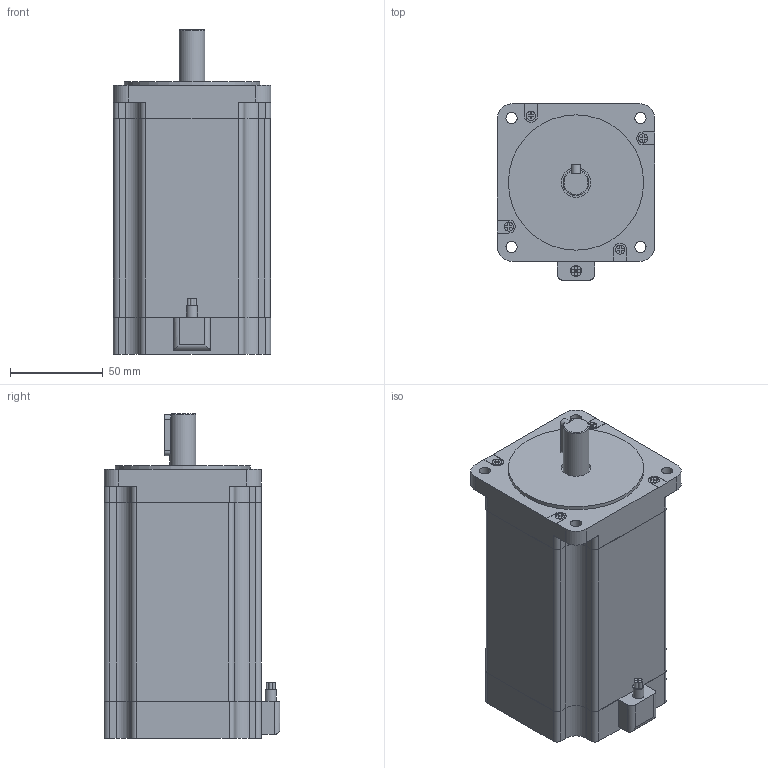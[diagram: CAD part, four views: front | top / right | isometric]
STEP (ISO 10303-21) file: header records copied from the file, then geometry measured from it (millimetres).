
FILE_DESCRIPTION(/* description */ (''),/* implementation_level */ '2;1');
FILE_NAME(/* name */ 'STC-86E40-03145.stp',/* time_stamp */ '2018-08-17T09:20:06+08:00',/* author */ (''),/* organization */ (''),/* preprocessor_version */ 'ST-DEVELOPER v11',/* originating_system */ 'SIEMENS UGS NX 6.0',/* authorisation */ '');
FILE_SCHEMA (('CONFIG_CONTROL_DESIGN'));
Length unit declared in the file: millimetre
Products named in the file (1): STC-86E40-03145
Bounding box: 85 x 95 x 175 mm (x, y, z)
Volume: 985 mm3; surface area: 64601.5 mm2
Topology: 2 solids, 3 shells, 202 faces, 542 edges, 363 vertices
Faces by surface type: plane 134, cylinder 67, torus 1
Full cylindrical faces by diameter (mm): 2 x4, 5 x4, 6 x5, 14 x2, 16 x1, 73.025 x1
Entity records: 6294 total; most frequent: CARTESIAN_POINT 1136, DIRECTION 1048, ORIENTED_EDGE 1028, EDGE_CURVE 514, LINE 378, VECTOR 378, VERTEX_POINT 353, AXIS2_PLACEMENT_3D 335
